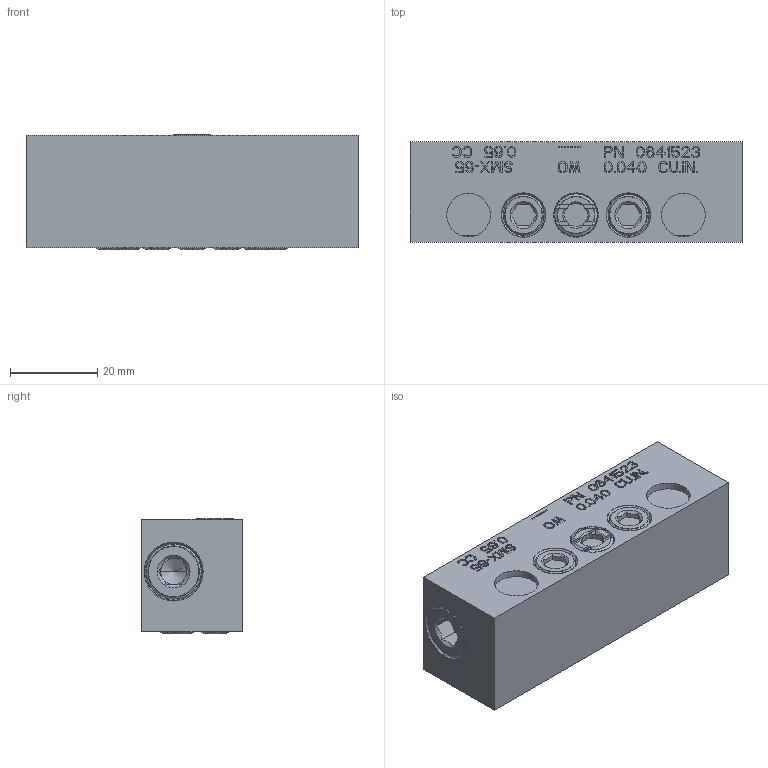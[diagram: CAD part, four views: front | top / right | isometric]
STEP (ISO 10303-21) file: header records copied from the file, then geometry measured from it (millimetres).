
FILE_DESCRIPTION((''),'2;1');
FILE_NAME('0641523_SMX_65','2023-07-21T09:55:25',('pietro.masciave'),(''),'CREO PARAMETRIC BY PTC INC, 2022281','CREO PARAMETRIC BY PTC INC, 2022281','');
FILE_SCHEMA(('CONFIG_CONTROL_DESIGN'));
Length unit declared in the file: millimetre
Products named in the file (1): 0641523_SMX_65
Bounding box: 76 x 23 x 26.33 mm (x, y, z)
Volume: 43968.5 mm3; surface area: 12619.8 mm2
Topology: 1 solids, 14 shells, 1362 faces, 3773 edges, 2507 vertices
Faces by surface type: plane 1188, cylinder 108, cone 44, torus 22
Entity records: 43869 total; most frequent: CARTESIAN_POINT 8770, ORIENTED_EDGE 7498, DIRECTION 6786, EDGE_CURVE 3769, VECTOR 3340, LINE 3340, VERTEX_POINT 2507, AXIS2_PLACEMENT_3D 1723
